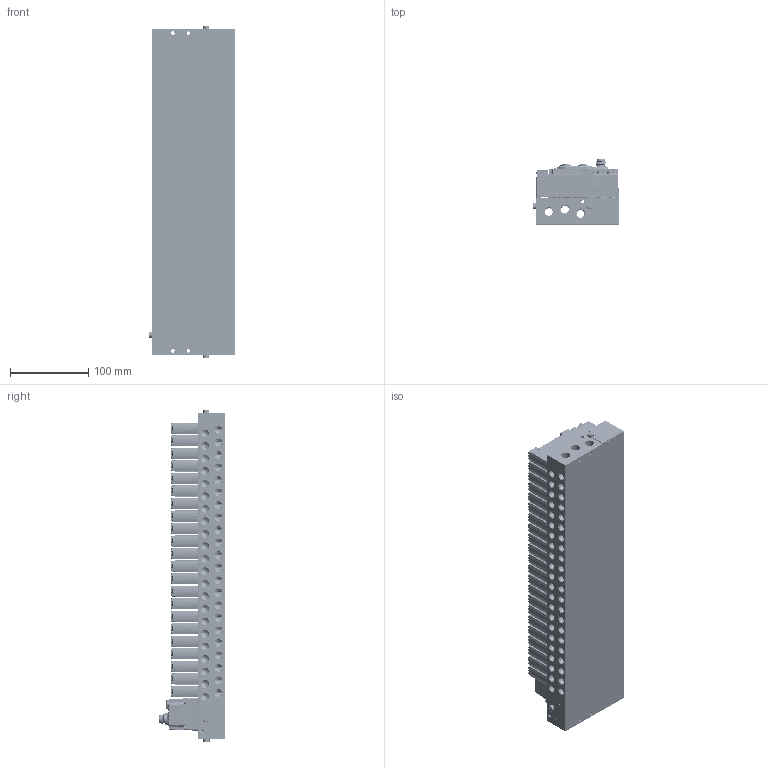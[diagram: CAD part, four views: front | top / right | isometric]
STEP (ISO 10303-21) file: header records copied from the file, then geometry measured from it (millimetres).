
FILE_DESCRIPTION((''),'2;1');
FILE_NAME('C3-L14-W-XBF-22_ASM','2026-06-18T16:21:37',('admin'),(''),'CREO PARAMETRIC BY PTC INC, 2022073','CREO PARAMETRIC BY PTC INC, 2022073','');
FILE_SCHEMA(('CONFIG_CONTROL_DESIGN'));
Products named in the file (49): 202300320_ASM-1_202300318_ASM-1; PRT0002-1-SOLID4; NONE-26329; PRT0002-1-SOLID2; 202300320_ASM-1_202300351-1-SOL; PRT0002-1-SOLID1; 202300320_ASM-1_202300349-1-SOL; 202300320_ASM-1_202300355-2-SOL; 202300320_ASM-1_202300353-1-SOL; NONE-120791; 202300320_ASM-1_202300355-1-SOL; 202300320_ASM-1_202300349-2-SOL; 202300320_ASM-1_202300353-2-SOL; NONE-167190; 202300320_ASM-1_202300351-2-SOL; 202300320_ASM-1_202300144-1-SOL; 202300320_ASM-1_202300327-1-SOL; 202300320_ASM-1_202300314_ASM-1; SURFACE-VGB14_ASM; C3-L14-W-XBF-22-126890; M50001; 0001; XBF_0001_ASM; C3-L14-W-XBF-22-53284_ASM; SURFACE-VGB14_ASM_1_ASM_1_ASM_2; M3X16-2-SOLID10001_1_1_1_1; M3X16-4-SOLID10001_1_1_1_1; SH794-1-1-SOLID1_1_1_1_1_1; SH794-1-1-SOLID1_1_2_1_1_1; SH794-1-1-SOLID1_1_3_1_1_1; SH794-1-1-SOLID1_1_ASM_1_ASM__1_ASM; M3X5-1-SOLID10001_1_1_1_1; M3X16-3-SOLID10001_1_1_1_1; M12D-2022_11_-70380001_1_1_1_1; M12D-2022_11_-82260001_1_1_1_1; M3X16-1-SOLID10001_1_1_1_1; NONE-196029_1_1_1_1; SH794-3-1-SOLID1_1_1_1_1; NONE-215390_1_1_1_1; M12A5-1-SOLID10001_1_1_1_1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
Assembly tree (101 placements, depth 9):
  C3-L14-W-XBF-22_ASM
    C3-L14-W-XBF-22-53284_ASM
      SURFACE-VGB14_ASM  x22
        202300320_ASM-1_202300318_ASM-1
        PRT0002-1-SOLID4
        NONE-26329
        PRT0002-1-SOLID2
        202300320_ASM-1_202300351-1-SOL
        PRT0002-1-SOLID1
        202300320_ASM-1_202300349-1-SOL
        202300320_ASM-1_202300355-2-SOL
        202300320_ASM-1_202300353-1-SOL
        NONE-120791
        202300320_ASM-1_202300355-1-SOL
        202300320_ASM-1_202300349-2-SOL
        202300320_ASM-1_202300353-2-SOL
        NONE-167190
        202300320_ASM-1_202300351-2-SOL
        202300320_ASM-1_202300144-1-SOL
        202300320_ASM-1_202300327-1-SOL
        202300320_ASM-1_202300314_ASM-1
      C3-L14-W-XBF-22-126890
      M50001  x3
      0001  x2
      XBF_0001_ASM
    ASM0001_ASM
      C3-L14-W-XBF-24_ASM_ASM_1_1_ASM
        C3-L14-W-XBF-24_ASM_ASM_1_ASM_2_ASM
          C3-L14-W-XBF-24_ASM_1_ASM_1_A_1_ASM
            C3-L14-W-XBF-24-210887_ASM_1__1_ASM
              SURFACE-VGB14_ASM_1_ASM_1_ASM_2  x24
              XBF_0001_ASM_1_ASM_1_ASM_1_1_ASM
                M3X16-2-SOLID10001_1_1_1_1
                M3X16-4-SOLID10001_1_1_1_1
                SH794-1-1-SOLID1_1_ASM_1_ASM__1_ASM
                  SH794-1-1-SOLID1_1_1_1_1_1
                  SH794-1-1-SOLID1_1_2_1_1_1
                  SH794-1-1-SOLID1_1_3_1_1_1
                M3X5-1-SOLID10001_1_1_1_1  x2
                M3X16-3-SOLID10001_1_1_1_1
                M12D-2022_11_-70380001_1_1_1_1
                M12D-2022_11_-82260001_1_1_1_1
                M3X16-1-SOLID10001_1_1_1_1
                NONE-196029_1_1_1_1
                SH794-3-1-SOLID1_1_1_1_1
                NONE-215390_1_1_1_1
                M12A5-1-SOLID10001_1_1_1_1
            _06--1-SOLID30001_1_1_1_1  x6
            IP_COVER_1_1_1_1
Bounding box: 110 x 83.3 x 424 mm (x, y, z)
Volume: 1948912.9 mm3; surface area: 701521.6 mm2
Topology: 424 solids, 580 shells, 32805 faces, 84048 edges, 48822 vertices
Faces by surface type: cylinder 11415, plane 8070, bspline 3706, torus 3481, cone 3065, sphere 2983, extrusion 85
Entity records: 207355 total; most frequent: CARTESIAN_POINT 72399, ORIENTED_EDGE 28140, DIRECTION 28120, EDGE_CURVE 14078, AXIS2_PLACEMENT_3D 11015, VERTEX_POINT 8987, EDGE_LOOP 6283, VECTOR 6090
